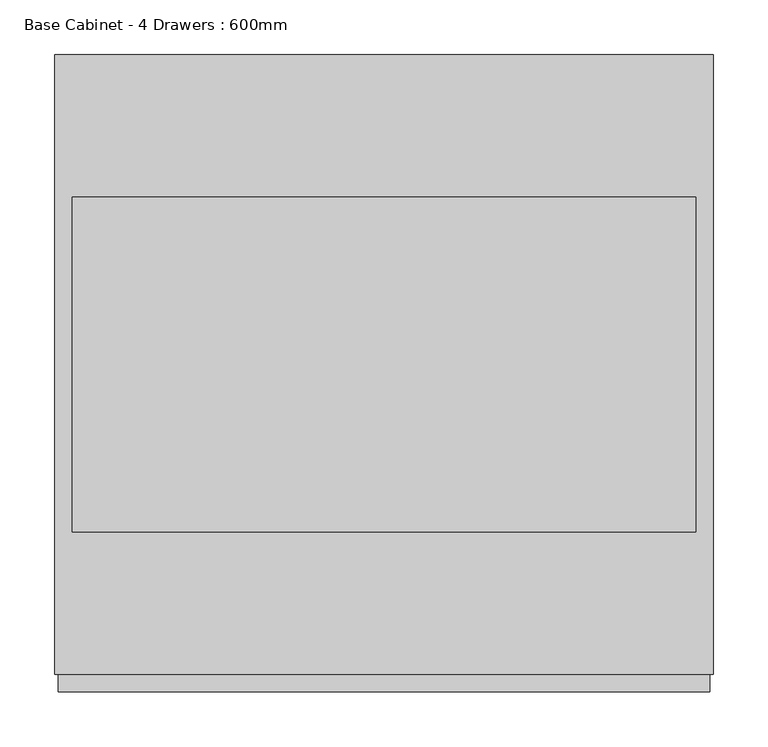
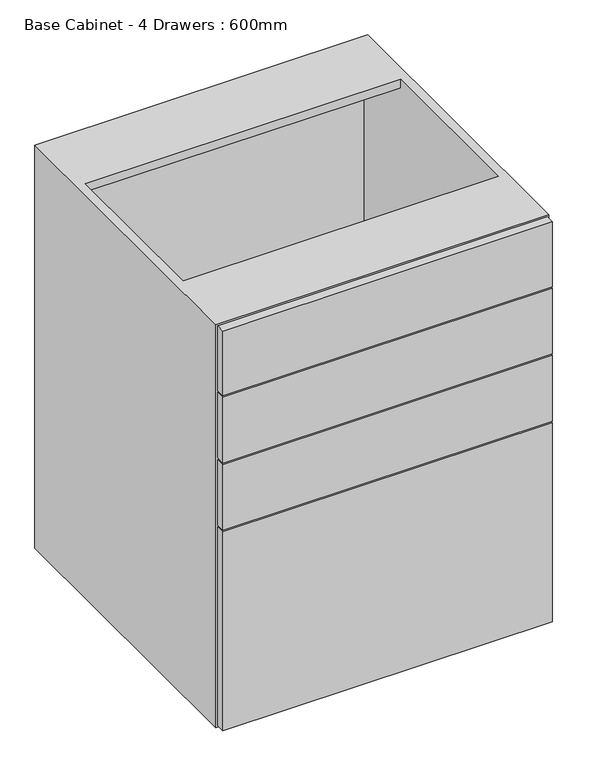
"""IFC4 building model written with IfcOpenShell, lengths in millimetres: furniture geometry, Base Cabinet - 4 Drawers : 600mm."""

import ifcopenshell
import ifcopenshell.guid

model = None  # the IFC model being written
_history = None  # IfcOwnerHistory: only IFC2X3 demands one
_inside = {}  # id of a spatial element -> (the spatial element, [elements in it])
_under = {}  # id of a project, library or spatial element -> (it, [spatial elements below it])
_declared = {}  # id of a project -> (the project, [libraries it declares])
_typed = {}  # id of a type object -> (the type object, [elements of that type])
_made_of = {}  # id of a material, layer set ... -> (it, [elements and type objects made of it])


def new_model(schema):
    """Start an empty IFC model of exactly this schema.

    Asked for "IFC4X3", IfcOpenShell would pick the latest addendum, in which some entities
    have other attributes; the version numbers below select the first issue.
    IFC2X3 requires an IfcOwnerHistory on every rooted entity: one is made here for all.
    """
    global model, _history
    if schema == "IFC4X3":
        model = ifcopenshell.file(schema_version=(4, 3, 0, 0))
    else:
        model = ifcopenshell.file(schema=schema)
    _inside.clear()
    _under.clear()
    _declared.clear()
    _typed.clear()
    _made_of.clear()
    _history = None
    if model.schema == "IFC2X3":
        org = make("IfcOrganization", Name="unknown")
        user = make(
            "IfcPersonAndOrganization",
            ThePerson=make("IfcPerson", FamilyName="unknown"),
            TheOrganization=org,
        )
        app = make(
            "IfcApplication",
            ApplicationDeveloper=org,
            Version="unknown",
            ApplicationFullName="unknown",
            ApplicationIdentifier="unknown",
        )
        _history = make(
            "IfcOwnerHistory",
            OwningUser=user,
            OwningApplication=app,
            ChangeAction="ADDED",
            CreationDate=0,
        )
    return model


def make(cls, **values):
    """One entity of the class cls with the attributes given. An attribute that is None is left unset."""
    return model.create_entity(
        cls, **{name: value for name, value in values.items() if value is not None}
    )


def rooted(cls, **values):
    """An entity with a GlobalId (a new one), such as an element, a storey or a relation."""
    return make(cls, GlobalId=ifcopenshell.guid.new(), OwnerHistory=_history, **values)


def si_unit(unit_type, name, prefix=None):
    """IfcSIUnit, for example si_unit("LENGTHUNIT", "METRE", prefix="MILLI")."""
    return make("IfcSIUnit", UnitType=unit_type, Prefix=prefix, Name=name)


def assignment(units):
    """IfcUnitAssignment: the units of a project."""
    return None if units is None else make("IfcUnitAssignment", Units=units)


def point(xyz):
    """IfcCartesianPoint."""
    return None if xyz is None else make("IfcCartesianPoint", Coordinates=xyz)


def direction(xyz):
    """IfcDirection."""
    return None if xyz is None else make("IfcDirection", DirectionRatios=xyz)


def frame(location, z_axis=None, x_axis=None):
    """IfcAxis2Placement3D, a coordinate frame: its origin and axes. An axis left out is left unset."""
    return make(
        "IfcAxis2Placement3D",
        Location=point(location),
        Axis=direction(z_axis),
        RefDirection=direction(x_axis),
    )


def origin():
    """The frame at (0, 0, 0) with its axes left unset."""
    return frame((0.0, 0.0, 0.0))


def place(relative_to, where):
    """IfcLocalPlacement: puts the frame where relative to a parent placement (None: the world)."""
    return make(
        "IfcLocalPlacement", PlacementRelTo=relative_to, RelativePlacement=where
    )


def context(
    kind, dimensions, precision=None, world=None, true_north=None, identifier=None
):
    """IfcGeometricRepresentationContext, for example the 3D "Model" context."""
    return make(
        "IfcGeometricRepresentationContext",
        ContextIdentifier=identifier,
        ContextType=kind,
        CoordinateSpaceDimension=dimensions,
        Precision=precision,
        WorldCoordinateSystem=world,
        TrueNorth=true_north,
    )


def project(units=None, contexts=None):
    """IfcProject with its units and contexts."""
    return rooted(
        "IfcProject",
        Name="project",
        RepresentationContexts=contexts,
        UnitsInContext=assignment(units),
    )


def spatial(cls, under=None, at=None, **own):
    """A site, building, storey or space (cls), placed at a placement, below another one or the project."""
    s = rooted(cls, ObjectPlacement=at, **own)
    if under is not None:
        _under.setdefault(under.id(), (under, []))[1].append(s)
    return s


def polyline(points):
    """IfcPolyline through the points."""
    return make("IfcPolyline", Points=[point(p) for p in points])


def outline(outer, holes=None, kind="AREA"):
    """IfcArbitraryClosedProfileDef: a profile drawn as a closed curve; with holes, ...WithVoids."""
    if holes is None:
        return make("IfcArbitraryClosedProfileDef", ProfileType=kind, OuterCurve=outer)
    return make(
        "IfcArbitraryProfileDefWithVoids",
        ProfileType=kind,
        OuterCurve=outer,
        InnerCurves=holes,
    )


def extrude(swept, where, along, depth):
    """IfcExtrudedAreaSolid: the profile swept, set in the frame where, extruded along a direction by depth."""
    return make(
        "IfcExtrudedAreaSolid",
        SweptArea=swept,
        Position=where,
        ExtrudedDirection=direction(along),
        Depth=depth,
    )


def faces_of(points, faces, orient=None, outer=None):
    """IfcFace entities. A face is a list of loops; a loop is a list of indices into points, from 0.

    orient and outer hold one flag for each loop. By default every Orientation is true, the
    first loop of a face is its IfcFaceOuterBound and the others are IfcFaceBound.
    """
    made = []
    for i, loops in enumerate(faces):
        bounds = []
        for j, loop in enumerate(loops):
            is_outer = j == 0 if outer is None else outer[i][j]
            bounds.append(
                make(
                    "IfcFaceOuterBound" if is_outer else "IfcFaceBound",
                    Bound=make("IfcPolyLoop", Polygon=[points[k] for k in loop]),
                    Orientation=True if orient is None else orient[i][j],
                )
            )
        made.append(make("IfcFace", Bounds=bounds))
    return made


def faceted_brep(points, faces, orient=None, outer=None, voids=None):
    """IfcFacetedBrep: a solid bounded by flat faces; with voids (closed shells), ...WithVoids."""
    shared = [point(p) for p in points]
    hull = make("IfcClosedShell", CfsFaces=faces_of(shared, faces, orient, outer))
    if voids is None:
        return make("IfcFacetedBrep", Outer=hull)
    return make(
        "IfcFacetedBrepWithVoids",
        Outer=hull,
        Voids=[
            make(cls, CfsFaces=faces_of(shared, fs, o, b)) for cls, fs, o, b in voids
        ],
    )


def shape(context_of_items, identifier, shape_type, items):
    """IfcShapeRepresentation: the items that make up one representation, for example the "Body"."""
    return make(
        "IfcShapeRepresentation",
        ContextOfItems=context_of_items,
        RepresentationIdentifier=identifier,
        RepresentationType=shape_type,
        Items=items,
    )


def source(mapping_origin, context_of_items, identifier, shape_type, items):
    """IfcRepresentationMap: a shape defined once, which mapped items show again and again."""
    return make(
        "IfcRepresentationMap",
        MappingOrigin=mapping_origin,
        MappedRepresentation=shape(context_of_items, identifier, shape_type, items),
    )


def transform(
    local_origin,
    x_axis=None,
    y_axis=None,
    z_axis=None,
    scale=None,
    scale2=None,
    scale3=None,
    uniform=True,
):
    """IfcCartesianTransformationOperator3D, or its non-uniform kind. x_axis, y_axis, z_axis: its Axis1, 2, 3."""
    if uniform:
        return make(
            "IfcCartesianTransformationOperator3D",
            Axis1=direction(x_axis),
            Axis2=direction(y_axis),
            LocalOrigin=point(local_origin),
            Scale=scale,
            Axis3=direction(z_axis),
        )
    return make(
        "IfcCartesianTransformationOperator3DnonUniform",
        Axis1=direction(x_axis),
        Axis2=direction(y_axis),
        LocalOrigin=point(local_origin),
        Scale=scale,
        Axis3=direction(z_axis),
        Scale2=scale2,
        Scale3=scale3,
    )


def mapped(mapping_source, mapping_target):
    """IfcMappedItem: shows the shape of a source again, moved by a transform."""
    return make(
        "IfcMappedItem", MappingSource=mapping_source, MappingTarget=mapping_target
    )


def made_of(thing, what):
    """Note that an element or type object is made of a material, layer set ...; save() writes the relation."""
    if what is not None:
        _made_of.setdefault(what.id(), (what, []))[1].append(thing)
    return thing


def element(
    cls,
    number,
    at=None,
    inside=None,
    cuts=None,
    type_object=None,
    material=None,
    context=None,
    identifier="Body",
    shape_type=None,
    held_by="IfcProductDefinitionShape",
    body=None,
    shapes=None,
    **own,
):
    """One element of the class cls, such as IfcWall. Its Tag is "e" and its number.

    at: its placement. inside: the storey or other place that contains it. cuts: it is an
    opening in that element (IfcRelVoidsElement). A single representation is given by context,
    identifier, shape_type and body (its items); several are given by shapes. held_by: the class
    of the entity that holds the representations. save() writes the other relations.
    """
    e = rooted(cls, Tag="e%d" % number, ObjectPlacement=at, **own)
    if body is not None:
        shapes = [shape(context, identifier, shape_type, body)]
    if shapes is not None:
        e.Representation = make(held_by, Representations=shapes)
    if inside is not None:
        _inside.setdefault(inside.id(), (inside, []))[1].append(e)
    if cuts is not None:
        rooted(
            "IfcRelVoidsElement", RelatingBuildingElement=cuts, RelatedOpeningElement=e
        )
    if type_object is not None:
        _typed.setdefault(type_object.id(), (type_object, []))[1].append(e)
    return made_of(e, material)


def aggregate(whole, parts):
    """IfcRelAggregates: a whole, such as a stair, and the parts it consists of."""
    return rooted("IfcRelAggregates", RelatingObject=whole, RelatedObjects=parts)


def save(model, path):
    """Write the relations noted so far, then the file.

    IfcRelAggregates (storeys below a building ...), IfcRelContainedInSpatialStructure (elements
    in a storey), IfcRelDefinesByType, IfcRelAssociatesMaterial and IfcRelDeclares: one each for
    every whole, place, type object, material and project.
    """
    for whole, parts in _under.values():
        aggregate(whole, parts)
    for where, things in _inside.values():
        rooted(
            "IfcRelContainedInSpatialStructure",
            RelatedElements=things,
            RelatingStructure=where,
        )
    for kind, things in _typed.values():
        rooted("IfcRelDefinesByType", RelatedObjects=things, RelatingType=kind)
    for what, things in _made_of.values():
        rooted("IfcRelAssociatesMaterial", RelatedObjects=things, RelatingMaterial=what)
    for by, libraries in _declared.values():
        rooted("IfcRelDeclares", RelatingContext=by, RelatedDefinitions=libraries)
    model.write(path)


def base_cabinet_4_drawers_600mm_bfcd0b6d(model_context):
    return source(origin(), model_context, "Body", "SolidModel", [
        extrude(outline(polyline([(341.7003264, -581.0), (-252.2996736, -581.0), (-252.2996736, -565.0), (341.7003264, -565.0), (341.7003264, -581.0)])), frame((0.0, 0.0, 741.5), z_axis=(0.0, 0.0, 1.0), x_axis=(1.0, 0.0, 0.0)), (0.0, 0.0, 1.0), 123.5),
        extrude(outline(polyline([(341.7003264, -581.0), (-252.2996736, -581.0), (-252.2996736, -565.0), (341.7003264, -565.0), (341.7003264, -581.0)])), frame((0.0, 0.0, 103.0), z_axis=(0.0, 0.0, 1.0), x_axis=(1.0, 0.0, 0.0)), (0.0, 0.0, 1.0), 379.5),
        extrude(outline(polyline([(341.7003264, -581.0), (-252.2996736, -581.0), (-252.2996736, -565.0), (341.7003264, -565.0), (341.7003264, -581.0)])), frame((0.0, 0.0, 613.5), z_axis=(0.0, 0.0, 1.0), x_axis=(1.0, 0.0, 0.0)), (0.0, 0.0, 1.0), 125.0),
        extrude(outline(polyline([(341.7003264, -581.0), (-252.2996736, -581.0), (-252.2996736, -565.0), (341.7003264, -565.0), (341.7003264, -581.0)])), frame((0.0, 0.0, 485.5), z_axis=(0.0, 0.0, 1.0), x_axis=(1.0, 0.0, 0.0)), (0.0, 0.0, 1.0), 125.0),
        faceted_brep([(344.7003264, 0.0, 868.0), (344.7003264, 0.0, 100.0), (-255.2996736, 0.0, 100.0), (-255.2996736, 0.0, 868.0), (328.7003264, 0.0, 852.0), (-239.2996736, 0.0, 852.0), (-239.2996736, 0.0, 116.0), (328.7003264, 0.0, 116.0), (344.7003264, -565.0, 868.0), (-255.2996736, -565.0, 868.0), (-255.2996736, -565.0, 100.0), (344.7003264, -565.0, 100.0), (328.7003264, -565.0, 852.0), (328.7003264, -565.0, 116.0), (-239.2996736, -565.0, 116.0), (-239.2996736, -565.0, 852.0), (-239.2996736, -130.0, 868.0), (328.7003264, -130.0, 868.0), (328.7003264, -435.0, 868.0), (-239.2996736, -435.0, 868.0), (328.7003264, -435.0, 852.0), (328.7003264, -130.0, 852.0), (-239.2996736, -130.0, 852.0), (-239.2996736, -435.0, 852.0)], [[[0, 1, 2, 3], [4, 5, 6, 7]], [[8, 9, 10, 11], [12, 13, 14, 15]], [[0, 3, 9, 8], [16, 17, 18, 19]], [[3, 2, 10, 9]], [[2, 1, 11, 10]], [[1, 0, 8, 11]], [[4, 7, 13, 12, 20, 18, 17, 21]], [[7, 6, 14, 13]], [[6, 5, 22, 16, 19, 23, 15, 14]], [[5, 4, 21, 22]], [[12, 15, 23, 20]], [[16, 22, 21, 17]], [[23, 19, 18, 20]]]),
        extrude(outline(polyline([(328.7003264, -10.0), (328.7003264, -16.0), (-239.2996736, -16.0), (-239.2996736, -10.0), (328.7003264, -10.0)])), frame((0.0, 0.0, 116.0), z_axis=(0.0, 0.0, 1.0), x_axis=(1.0, 0.0, 0.0)), (0.0, 0.0, 1.0), 672.0),
    ])


if __name__ == "__main__":
    model = new_model("IFC4")
    model_context = context("Model", 3, world=origin())
    ifc_project = project(units=[si_unit("LENGTHUNIT", "METRE", prefix="MILLI")], contexts=[model_context])
    site = spatial("IfcSite", under=ifc_project)
    building = spatial("IfcBuilding", under=site)
    placement = place(None, origin())
    base_cabinet_4_drawers_600mm_shape = base_cabinet_4_drawers_600mm_bfcd0b6d(model_context)
    element("IfcFurniture", 1, ObjectType="Base Cabinet - 4 Drawers : 600mm", at=placement, inside=building, context=model_context, shape_type="MappedRepresentation", body=[
        mapped(base_cabinet_4_drawers_600mm_shape, transform((0.0, 0.0, 0.0), x_axis=(1.0, 0.0, 0.0), y_axis=(0.0, 1.0, 0.0), z_axis=(0.0, 0.0, 1.0))),
    ])
    save(model, "model.ifc")
